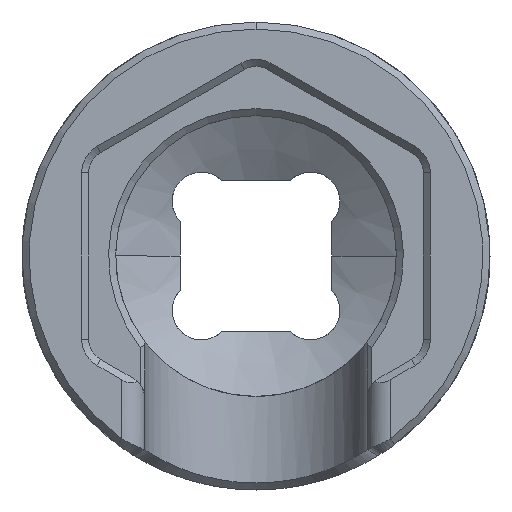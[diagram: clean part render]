
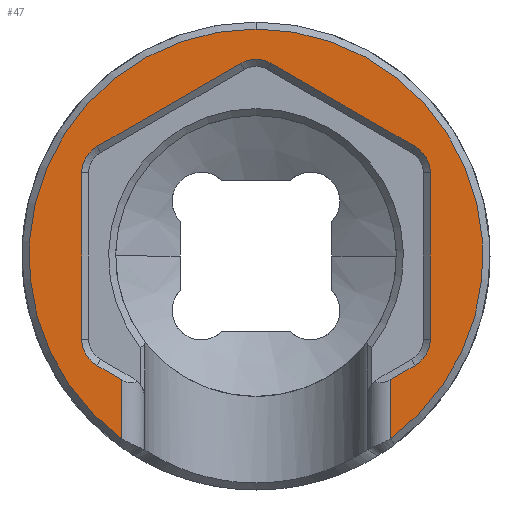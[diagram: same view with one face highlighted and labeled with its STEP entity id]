
A CAD part, front view. The second image highlights one B-rep face of the part: STEP entity #47.
In plain terms, the highlighted planar face has unit normal (0, -1, 0).
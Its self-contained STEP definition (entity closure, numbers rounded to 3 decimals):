
#46 = LINE ( 'NONE', #2871, #3040 ) ;
#47 = ADVANCED_FACE ( 'NONE', ( #3104 ), #4961, .F. ) ;
#91 = ORIENTED_EDGE ( 'NONE', *, *, #4950, .T. ) ;
#146 = CARTESIAN_POINT ( 'NONE',  ( 6.8, 0., 4.677 ) ) ;
#153 = EDGE_CURVE ( 'NONE', #870, #910, #4719, .T. ) ;
#178 = CARTESIAN_POINT ( 'NONE',  ( 0., 0., 9.7 ) ) ;
#189 = ORIENTED_EDGE ( 'NONE', *, *, #2165, .T. ) ;
#281 = CARTESIAN_POINT ( 'NONE',  ( 6.8, 0., -4.677 ) ) ;
#321 = VECTOR ( 'NONE', #5696, 1000. ) ;
#334 = DIRECTION ( 'NONE',  ( 0., 0., 1. ) ) ;
#353 = VECTOR ( 'NONE', #5493, 1000. ) ;
#382 = CARTESIAN_POINT ( 'NONE',  ( -6.8, 0., 4.677 ) ) ;
#426 = ORIENTED_EDGE ( 'NONE', *, *, #2244, .T. ) ;
#468 = VECTOR ( 'NONE', #4239, 1000. ) ;
#557 = CIRCLE ( 'NONE', #3666, 9.7 ) ;
#604 = CARTESIAN_POINT ( 'NONE',  ( 6.15, 0., -3.551 ) ) ;
#635 = ORIENTED_EDGE ( 'NONE', *, *, #1672, .T. ) ;
#640 = DIRECTION ( 'NONE',  ( 0., 0., 1. ) ) ;
#725 = CARTESIAN_POINT ( 'NONE',  ( 0., 0., 7.101 ) ) ;
#734 = CIRCLE ( 'NONE', #3382, 1.3 ) ;
#788 = CARTESIAN_POINT ( 'NONE',  ( 0., 0., 0. ) ) ;
#840 = VERTEX_POINT ( 'NONE', #4753 ) ;
#849 = ORIENTED_EDGE ( 'NONE', *, *, #4436, .T. ) ;
#870 = VERTEX_POINT ( 'NONE', #5798 ) ;
#890 = EDGE_CURVE ( 'NONE', #5089, #3806, #734, .T. ) ;
#910 = VERTEX_POINT ( 'NONE', #5740 ) ;
#957 = DIRECTION ( 'NONE',  ( 0.866, 0., -0.5 ) ) ;
#1019 = CARTESIAN_POINT ( 'NONE',  ( -5.75, 0., -7.812 ) ) ;
#1026 = CARTESIAN_POINT ( 'NONE',  ( -7.45, 0., 3.551 ) ) ;
#1087 = ORIENTED_EDGE ( 'NONE', *, *, #5292, .T. ) ;
#1100 = AXIS2_PLACEMENT_3D ( 'NONE', #725, #3500, #4166 ) ;
#1118 = ORIENTED_EDGE ( 'NONE', *, *, #153, .T. ) ;
#1132 = CIRCLE ( 'NONE', #5873, 1.3 ) ;
#1216 = CARTESIAN_POINT ( 'NONE',  ( -7.45, 0., 3.551 ) ) ;
#1228 = DIRECTION ( 'NONE',  ( 0., 0., 1. ) ) ;
#1322 = CARTESIAN_POINT ( 'NONE',  ( 0., 0., 0. ) ) ;
#1356 = DIRECTION ( 'NONE',  ( 0., -1., 0. ) ) ;
#1478 = LINE ( 'NONE', #2393, #2076 ) ;
#1484 = VECTOR ( 'NONE', #3079, 1000. ) ;
#1561 = CARTESIAN_POINT ( 'NONE',  ( -5.75, 0., 0. ) ) ;
#1586 = VECTOR ( 'NONE', #4759, 1000. ) ;
#1644 = EDGE_CURVE ( 'NONE', #840, #5089, #4775, .T. ) ;
#1672 = EDGE_CURVE ( 'NONE', #3595, #3632, #5210, .T. ) ;
#1677 = CARTESIAN_POINT ( 'NONE',  ( 7.45, 0., -3.551 ) ) ;
#1692 = VERTEX_POINT ( 'NONE', #146 ) ;
#1708 = VERTEX_POINT ( 'NONE', #178 ) ;
#1824 = DIRECTION ( 'NONE',  ( 0., 0., 1. ) ) ;
#1936 = CARTESIAN_POINT ( 'NONE',  ( -6.8, 0., -4.677 ) ) ;
#1974 = CIRCLE ( 'NONE', #1100, 1.3 ) ;
#2004 = DIRECTION ( 'NONE',  ( 0., 0., 1. ) ) ;
#2076 = VECTOR ( 'NONE', #5219, 1000. ) ;
#2106 = DIRECTION ( 'NONE',  ( 0., 0., 1. ) ) ;
#2165 = EDGE_CURVE ( 'NONE', #1692, #4504, #1132, .T. ) ;
#2244 = EDGE_CURVE ( 'NONE', #4383, #2959, #5942, .T. ) ;
#2393 = CARTESIAN_POINT ( 'NONE',  ( -0.65, 0., 8.227 ) ) ;
#2396 = VECTOR ( 'NONE', #4806, 1000. ) ;
#2457 = DIRECTION ( 'NONE',  ( 0., 1., 0. ) ) ;
#2467 = CIRCLE ( 'NONE', #3246, 9.7 ) ;
#2530 = CARTESIAN_POINT ( 'NONE',  ( -6.15, 0., 3.551 ) ) ;
#2534 = ORIENTED_EDGE ( 'NONE', *, *, #2866, .T. ) ;
#2603 = CARTESIAN_POINT ( 'NONE',  ( -5.75, 0., -5.283 ) ) ;
#2623 = CARTESIAN_POINT ( 'NONE',  ( 7.45, 0., -3.551 ) ) ;
#2648 = DIRECTION ( 'NONE',  ( 0., 1., 0. ) ) ;
#2700 = ORIENTED_EDGE ( 'NONE', *, *, #4858, .T. ) ;
#2861 = CARTESIAN_POINT ( 'NONE',  ( 5.75, 0., 0. ) ) ;
#2866 = EDGE_CURVE ( 'NONE', #910, #1708, #557, .T. ) ;
#2871 = CARTESIAN_POINT ( 'NONE',  ( 6.8, 0., 4.677 ) ) ;
#2954 = CARTESIAN_POINT ( 'NONE',  ( 0., 0., 0. ) ) ;
#2959 = VERTEX_POINT ( 'NONE', #1936 ) ;
#3033 = VERTEX_POINT ( 'NONE', #1019 ) ;
#3040 = VECTOR ( 'NONE', #957, 1000. ) ;
#3079 = DIRECTION ( 'NONE',  ( 0., 0., -1. ) ) ;
#3088 = AXIS2_PLACEMENT_3D ( 'NONE', #788, #2648, #334 ) ;
#3104 = FACE_OUTER_BOUND ( 'NONE', #4275, .T. ) ;
#3211 = DIRECTION ( 'NONE',  ( 0., 0., 1. ) ) ;
#3246 = AXIS2_PLACEMENT_3D ( 'NONE', #2954, #5321, #2106 ) ;
#3370 = AXIS2_PLACEMENT_3D ( 'NONE', #604, #2457, #2004 ) ;
#3382 = AXIS2_PLACEMENT_3D ( 'NONE', #2530, #4871, #640 ) ;
#3500 = DIRECTION ( 'NONE',  ( 0., 1., 0. ) ) ;
#3549 = CARTESIAN_POINT ( 'NONE',  ( -6.15, 0., -3.551 ) ) ;
#3568 = LINE ( 'NONE', #1677, #1484 ) ;
#3595 = VERTEX_POINT ( 'NONE', #2623 ) ;
#3632 = VERTEX_POINT ( 'NONE', #281 ) ;
#3644 = VERTEX_POINT ( 'NONE', #5470 ) ;
#3666 = AXIS2_PLACEMENT_3D ( 'NONE', #1322, #1356, #3211 ) ;
#3804 = EDGE_CURVE ( 'NONE', #4855, #3644, #1974, .T. ) ;
#3806 = VERTEX_POINT ( 'NONE', #382 ) ;
#3887 = LINE ( 'NONE', #4798, #321 ) ;
#4047 = CARTESIAN_POINT ( 'NONE',  ( 6.15, 0., 3.551 ) ) ;
#4166 = DIRECTION ( 'NONE',  ( 0., 0., 1. ) ) ;
#4237 = ORIENTED_EDGE ( 'NONE', *, *, #890, .T. ) ;
#4239 = DIRECTION ( 'NONE',  ( 0., 0., -1. ) ) ;
#4275 = EDGE_LOOP ( 'NONE', ( #1118, #2534, #1087, #2700, #426, #5487, #4585, #4237, #4412, #4718, #5182, #189, #91, #635, #849 ) ) ;
#4320 = CIRCLE ( 'NONE', #5757, 1.3 ) ;
#4337 = EDGE_CURVE ( 'NONE', #3806, #4855, #1478, .T. ) ;
#4383 = VERTEX_POINT ( 'NONE', #2603 ) ;
#4412 = ORIENTED_EDGE ( 'NONE', *, *, #4337, .T. ) ;
#4436 = EDGE_CURVE ( 'NONE', #3632, #870, #3887, .T. ) ;
#4504 = VERTEX_POINT ( 'NONE', #5727 ) ;
#4532 = DIRECTION ( 'NONE',  ( 0., 1., 0. ) ) ;
#4585 = ORIENTED_EDGE ( 'NONE', *, *, #1644, .T. ) ;
#4695 = EDGE_CURVE ( 'NONE', #3644, #1692, #46, .T. ) ;
#4718 = ORIENTED_EDGE ( 'NONE', *, *, #3804, .T. ) ;
#4719 = LINE ( 'NONE', #2861, #468 ) ;
#4753 = CARTESIAN_POINT ( 'NONE',  ( -7.45, 0., -3.551 ) ) ;
#4759 = DIRECTION ( 'NONE',  ( 0., 0., 1. ) ) ;
#4775 = LINE ( 'NONE', #1026, #2396 ) ;
#4790 = LINE ( 'NONE', #1561, #1586 ) ;
#4798 = CARTESIAN_POINT ( 'NONE',  ( 0.65, 0., -8.227 ) ) ;
#4806 = DIRECTION ( 'NONE',  ( 0., 0., 1. ) ) ;
#4855 = VERTEX_POINT ( 'NONE', #5328 ) ;
#4858 = EDGE_CURVE ( 'NONE', #3033, #4383, #4790, .T. ) ;
#4871 = DIRECTION ( 'NONE',  ( 0., 1., 0. ) ) ;
#4950 = EDGE_CURVE ( 'NONE', #4504, #3595, #3568, .T. ) ;
#4961 = PLANE ( 'NONE',  #3088 ) ;
#5089 = VERTEX_POINT ( 'NONE', #1216 ) ;
#5182 = ORIENTED_EDGE ( 'NONE', *, *, #4695, .T. ) ;
#5210 = CIRCLE ( 'NONE', #3370, 1.3 ) ;
#5219 = DIRECTION ( 'NONE',  ( 0.866, 0., 0.5 ) ) ;
#5292 = EDGE_CURVE ( 'NONE', #1708, #3033, #2467, .T. ) ;
#5321 = DIRECTION ( 'NONE',  ( 0., -1., 0. ) ) ;
#5328 = CARTESIAN_POINT ( 'NONE',  ( -0.65, 0., 8.227 ) ) ;
#5395 = DIRECTION ( 'NONE',  ( 0., 1., 0. ) ) ;
#5470 = CARTESIAN_POINT ( 'NONE',  ( 0.65, 0., 8.227 ) ) ;
#5487 = ORIENTED_EDGE ( 'NONE', *, *, #5500, .T. ) ;
#5493 = DIRECTION ( 'NONE',  ( -0.866, 0., 0.5 ) ) ;
#5500 = EDGE_CURVE ( 'NONE', #2959, #840, #4320, .T. ) ;
#5696 = DIRECTION ( 'NONE',  ( -0.866, 0., -0.5 ) ) ;
#5727 = CARTESIAN_POINT ( 'NONE',  ( 7.45, 0., 3.551 ) ) ;
#5740 = CARTESIAN_POINT ( 'NONE',  ( 5.75, 0., -7.812 ) ) ;
#5757 = AXIS2_PLACEMENT_3D ( 'NONE', #3549, #5395, #1228 ) ;
#5798 = CARTESIAN_POINT ( 'NONE',  ( 5.75, 0., -5.283 ) ) ;
#5873 = AXIS2_PLACEMENT_3D ( 'NONE', #4047, #4532, #1824 ) ;
#5883 = CARTESIAN_POINT ( 'NONE',  ( -6.8, 0., -4.677 ) ) ;
#5942 = LINE ( 'NONE', #5883, #353 ) ;
